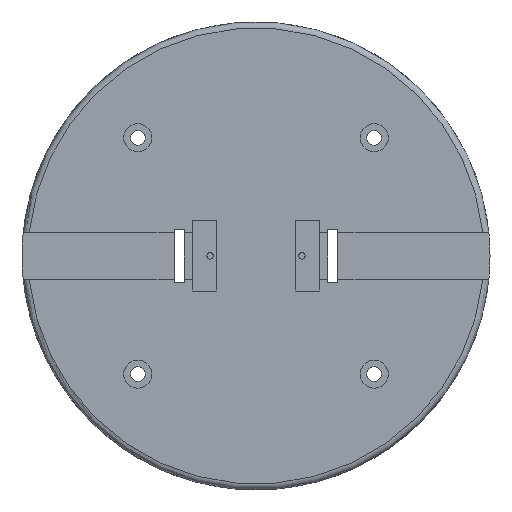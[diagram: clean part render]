
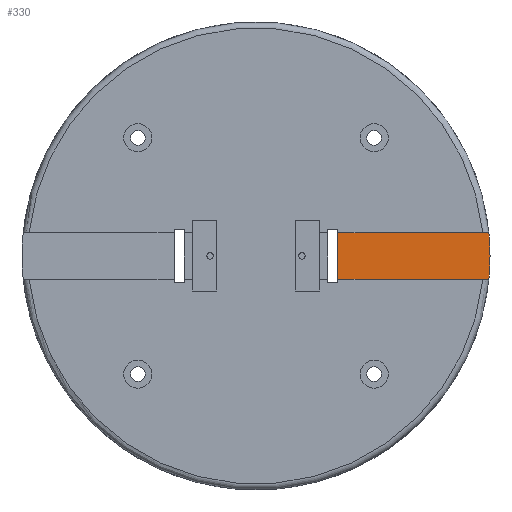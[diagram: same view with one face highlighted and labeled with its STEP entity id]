
A CAD part, top view. The second image highlights one B-rep face of the part: STEP entity #330.
In plain terms, the highlighted planar face has unit normal (0, 0, 1).
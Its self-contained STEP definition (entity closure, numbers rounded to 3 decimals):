
#24 = VERTEX_POINT('',#25);
#25 = CARTESIAN_POINT('',(70.,0.,-25.));
#32 = CYLINDRICAL_SURFACE('',#33,70.);
#33 = AXIS2_PLACEMENT_3D('',#34,#35,#36);
#34 = CARTESIAN_POINT('',(0.,0.,-27.));
#35 = DIRECTION('',(-0.,-0.,-1.));
#36 = DIRECTION('',(1.,0.,0.));
#79 = EDGE_CURVE('',#80,#24,#82,.T.);
#80 = VERTEX_POINT('',#81);
#81 = CARTESIAN_POINT('',(69.649,7.,-25.));
#82 = SURFACE_CURVE('',#83,(#88,#95),.PCURVE_S1.);
#83 = CIRCLE('',#84,70.);
#84 = AXIS2_PLACEMENT_3D('',#85,#86,#87);
#85 = CARTESIAN_POINT('',(0.,0.,-25.));
#86 = DIRECTION('',(0.,0.,-1.));
#87 = DIRECTION('',(1.,0.,0.));
#88 = PCURVE('',#32,#89);
#89 = DEFINITIONAL_REPRESENTATION('',(#90),#94);
#90 = LINE('',#91,#92);
#91 = CARTESIAN_POINT('',(-6.283,-2.));
#92 = VECTOR('',#93,1.);
#93 = DIRECTION('',(1.,-0.));
#94 = ( GEOMETRIC_REPRESENTATION_CONTEXT(2) 
PARAMETRIC_REPRESENTATION_CONTEXT() REPRESENTATION_CONTEXT('2D SPACE',''
  ) );
#95 = PCURVE('',#96,#101);
#96 = PLANE('',#97);
#97 = AXIS2_PLACEMENT_3D('',#98,#99,#100);
#98 = CARTESIAN_POINT('',(18.,-7.,-25.));
#99 = DIRECTION('',(0.,0.,1.));
#100 = DIRECTION('',(1.,0.,0.));
#101 = DEFINITIONAL_REPRESENTATION('',(#102),#110);
#102 = ( BOUNDED_CURVE() B_SPLINE_CURVE(2,(#103,#104,#105,#106,#107,#108
,#109),.UNSPECIFIED.,.T.,.F.) B_SPLINE_CURVE_WITH_KNOTS((1,2,2,2,2,1),(
    -2.094,0.,2.094,4.189,6.283,
8.378),.UNSPECIFIED.) CURVE() GEOMETRIC_REPRESENTATION_ITEM() 
RATIONAL_B_SPLINE_CURVE((1.,0.5,1.,0.5,1.,0.5,1.)) REPRESENTATION_ITEM(
  '') );
#103 = CARTESIAN_POINT('',(52.,7.));
#104 = CARTESIAN_POINT('',(52.,-114.244));
#105 = CARTESIAN_POINT('',(-53.,-53.622));
#106 = CARTESIAN_POINT('',(-158.,7.));
#107 = CARTESIAN_POINT('',(-53.,67.622));
#108 = CARTESIAN_POINT('',(52.,128.244));
#109 = CARTESIAN_POINT('',(52.,7.));
#110 = ( GEOMETRIC_REPRESENTATION_CONTEXT(2) 
PARAMETRIC_REPRESENTATION_CONTEXT() REPRESENTATION_CONTEXT('2D SPACE',''
  ) );
#127 = PLANE('',#128);
#128 = AXIS2_PLACEMENT_3D('',#129,#130,#131);
#129 = CARTESIAN_POINT('',(18.,7.,-25.));
#130 = DIRECTION('',(0.,1.,0.));
#131 = DIRECTION('',(0.,0.,1.));
#280 = VERTEX_POINT('',#281);
#281 = CARTESIAN_POINT('',(69.649,-7.,-25.));
#294 = PLANE('',#295);
#295 = AXIS2_PLACEMENT_3D('',#296,#297,#298);
#296 = CARTESIAN_POINT('',(18.,-7.,-25.));
#297 = DIRECTION('',(0.,1.,0.));
#298 = DIRECTION('',(0.,0.,1.));
#305 = EDGE_CURVE('',#24,#280,#306,.T.);
#306 = SURFACE_CURVE('',#307,(#312,#319),.PCURVE_S1.);
#307 = CIRCLE('',#308,70.);
#308 = AXIS2_PLACEMENT_3D('',#309,#310,#311);
#309 = CARTESIAN_POINT('',(0.,0.,-25.));
#310 = DIRECTION('',(0.,0.,-1.));
#311 = DIRECTION('',(1.,0.,0.));
#312 = PCURVE('',#32,#313);
#313 = DEFINITIONAL_REPRESENTATION('',(#314),#318);
#314 = LINE('',#315,#316);
#315 = CARTESIAN_POINT('',(-6.283,-2.));
#316 = VECTOR('',#317,1.);
#317 = DIRECTION('',(1.,-0.));
#318 = ( GEOMETRIC_REPRESENTATION_CONTEXT(2) 
PARAMETRIC_REPRESENTATION_CONTEXT() REPRESENTATION_CONTEXT('2D SPACE',''
  ) );
#319 = PCURVE('',#96,#320);
#320 = DEFINITIONAL_REPRESENTATION('',(#321),#329);
#321 = ( BOUNDED_CURVE() B_SPLINE_CURVE(2,(#322,#323,#324,#325,#326,#327
,#328),.UNSPECIFIED.,.T.,.F.) B_SPLINE_CURVE_WITH_KNOTS((1,2,2,2,2,1),(
    -2.094,0.,2.094,4.189,6.283,
8.378),.UNSPECIFIED.) CURVE() GEOMETRIC_REPRESENTATION_ITEM() 
RATIONAL_B_SPLINE_CURVE((1.,0.5,1.,0.5,1.,0.5,1.)) REPRESENTATION_ITEM(
  '') );
#322 = CARTESIAN_POINT('',(52.,7.));
#323 = CARTESIAN_POINT('',(52.,-114.244));
#324 = CARTESIAN_POINT('',(-53.,-53.622));
#325 = CARTESIAN_POINT('',(-158.,7.));
#326 = CARTESIAN_POINT('',(-53.,67.622));
#327 = CARTESIAN_POINT('',(52.,128.244));
#328 = CARTESIAN_POINT('',(52.,7.));
#329 = ( GEOMETRIC_REPRESENTATION_CONTEXT(2) 
PARAMETRIC_REPRESENTATION_CONTEXT() REPRESENTATION_CONTEXT('2D SPACE',''
  ) );
#330 = ADVANCED_FACE('',(#331),#96,.T.);
#331 = FACE_BOUND('',#332,.T.);
#332 = EDGE_LOOP('',(#333,#356,#382,#403,#404));
#333 = ORIENTED_EDGE('',*,*,#334,.F.);
#334 = EDGE_CURVE('',#335,#80,#337,.T.);
#335 = VERTEX_POINT('',#336);
#336 = CARTESIAN_POINT('',(24.5,7.,-25.));
#337 = SURFACE_CURVE('',#338,(#342,#349),.PCURVE_S1.);
#338 = LINE('',#339,#340);
#339 = CARTESIAN_POINT('',(18.,7.,-25.));
#340 = VECTOR('',#341,1.);
#341 = DIRECTION('',(1.,0.,0.));
#342 = PCURVE('',#96,#343);
#343 = DEFINITIONAL_REPRESENTATION('',(#344),#348);
#344 = LINE('',#345,#346);
#345 = CARTESIAN_POINT('',(0.,14.));
#346 = VECTOR('',#347,1.);
#347 = DIRECTION('',(1.,0.));
#348 = ( GEOMETRIC_REPRESENTATION_CONTEXT(2) 
PARAMETRIC_REPRESENTATION_CONTEXT() REPRESENTATION_CONTEXT('2D SPACE',''
  ) );
#349 = PCURVE('',#127,#350);
#350 = DEFINITIONAL_REPRESENTATION('',(#351),#355);
#351 = LINE('',#352,#353);
#352 = CARTESIAN_POINT('',(0.,0.));
#353 = VECTOR('',#354,1.);
#354 = DIRECTION('',(0.,1.));
#355 = ( GEOMETRIC_REPRESENTATION_CONTEXT(2) 
PARAMETRIC_REPRESENTATION_CONTEXT() REPRESENTATION_CONTEXT('2D SPACE',''
  ) );
#356 = ORIENTED_EDGE('',*,*,#357,.F.);
#357 = EDGE_CURVE('',#358,#335,#360,.T.);
#358 = VERTEX_POINT('',#359);
#359 = CARTESIAN_POINT('',(24.5,-7.,-25.));
#360 = SURFACE_CURVE('',#361,(#365,#371),.PCURVE_S1.);
#361 = LINE('',#362,#363);
#362 = CARTESIAN_POINT('',(24.5,-7.5,-25.));
#363 = VECTOR('',#364,1.);
#364 = DIRECTION('',(0.,1.,0.));
#365 = PCURVE('',#96,#366);
#366 = DEFINITIONAL_REPRESENTATION('',(#367),#370);
#367 = B_SPLINE_CURVE_WITH_KNOTS('',1,(#368,#369),.UNSPECIFIED.,.F.,.F.,
  (2,2),(0.5,14.5),.PIECEWISE_BEZIER_KNOTS.);
#368 = CARTESIAN_POINT('',(6.5,0.));
#369 = CARTESIAN_POINT('',(6.5,14.));
#370 = ( GEOMETRIC_REPRESENTATION_CONTEXT(2) 
PARAMETRIC_REPRESENTATION_CONTEXT() REPRESENTATION_CONTEXT('2D SPACE',''
  ) );
#371 = PCURVE('',#372,#377);
#372 = PLANE('',#373);
#373 = AXIS2_PLACEMENT_3D('',#374,#375,#376);
#374 = CARTESIAN_POINT('',(24.5,-8.,-27.5));
#375 = DIRECTION('',(1.,0.,0.));
#376 = DIRECTION('',(0.,0.,1.));
#377 = DEFINITIONAL_REPRESENTATION('',(#378),#381);
#378 = B_SPLINE_CURVE_WITH_KNOTS('',1,(#379,#380),.UNSPECIFIED.,.F.,.F.,
  (2,2),(0.5,14.5),.PIECEWISE_BEZIER_KNOTS.);
#379 = CARTESIAN_POINT('',(2.5,-1.));
#380 = CARTESIAN_POINT('',(2.5,-15.));
#381 = ( GEOMETRIC_REPRESENTATION_CONTEXT(2) 
PARAMETRIC_REPRESENTATION_CONTEXT() REPRESENTATION_CONTEXT('2D SPACE',''
  ) );
#382 = ORIENTED_EDGE('',*,*,#383,.T.);
#383 = EDGE_CURVE('',#358,#280,#384,.T.);
#384 = SURFACE_CURVE('',#385,(#389,#396),.PCURVE_S1.);
#385 = LINE('',#386,#387);
#386 = CARTESIAN_POINT('',(18.,-7.,-25.));
#387 = VECTOR('',#388,1.);
#388 = DIRECTION('',(1.,0.,0.));
#389 = PCURVE('',#96,#390);
#390 = DEFINITIONAL_REPRESENTATION('',(#391),#395);
#391 = LINE('',#392,#393);
#392 = CARTESIAN_POINT('',(0.,0.));
#393 = VECTOR('',#394,1.);
#394 = DIRECTION('',(1.,0.));
#395 = ( GEOMETRIC_REPRESENTATION_CONTEXT(2) 
PARAMETRIC_REPRESENTATION_CONTEXT() REPRESENTATION_CONTEXT('2D SPACE',''
  ) );
#396 = PCURVE('',#294,#397);
#397 = DEFINITIONAL_REPRESENTATION('',(#398),#402);
#398 = LINE('',#399,#400);
#399 = CARTESIAN_POINT('',(0.,0.));
#400 = VECTOR('',#401,1.);
#401 = DIRECTION('',(0.,1.));
#402 = ( GEOMETRIC_REPRESENTATION_CONTEXT(2) 
PARAMETRIC_REPRESENTATION_CONTEXT() REPRESENTATION_CONTEXT('2D SPACE',''
  ) );
#403 = ORIENTED_EDGE('',*,*,#305,.F.);
#404 = ORIENTED_EDGE('',*,*,#79,.F.);
